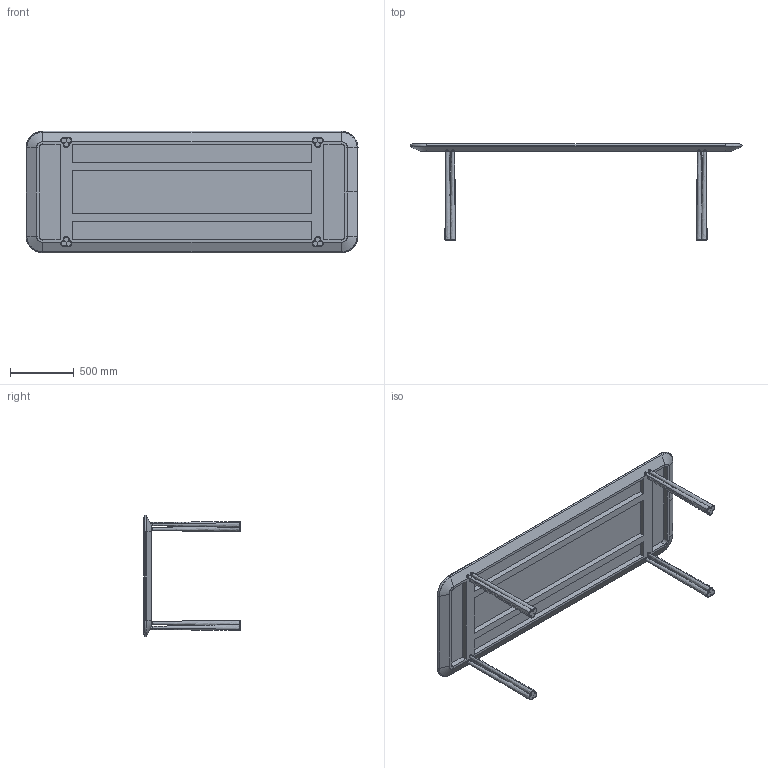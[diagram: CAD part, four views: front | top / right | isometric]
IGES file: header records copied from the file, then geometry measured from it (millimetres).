
Start section: SolidWorks IGES file using analytic representation for surfaces
Global section: file name: E:\Box Sync\Jason Miller\056 Rectangular Elliot Dining Table\sales related\SW\051LZ Elliot Dining Table\056L Rectangular Elliot Dining Table.IGS; native system: SolidWorks 2016; preprocessor: SolidWorks 2016; author: Kumagai; date: 181024.104331; units: millimetre
Bounding box: 2600 x 753.5 x 950 mm (x, y, z)
Surface area: 6779840.3 mm2 (no closed solid volume)
Topology: 0 solids, 0 shells, 253 faces, 5318 edges, 5318 vertices
Faces by surface type: bspline 177, revolution 76
